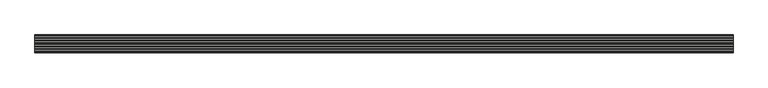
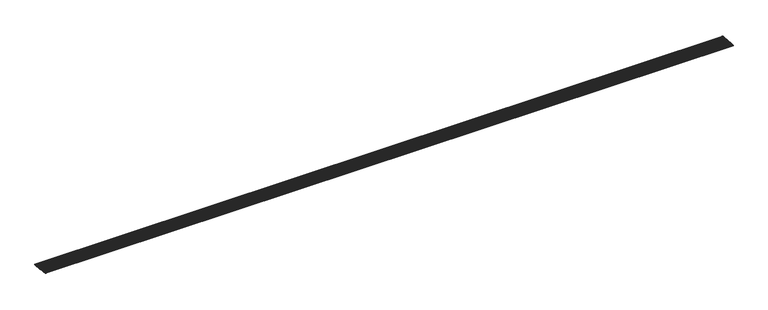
"""IFC4 building model written with IfcOpenShell, lengths in millimetres: slab geometry, ROSA GRES_001 (2 filas) : Piezas 001_Aqua_Blanco_Anti-Slip."""

from ifc_helpers import new_model, si_unit, point, frame, frame_2d, origin, place, context, project, spatial, polyline, circle_curve, trimmed, segment, composite_curve, outline, extrude, source, transform, mapped, element, save


def slab_0e8e06c2(model_context):
    return source(origin(), model_context, "Body", "SweptSolid", [
        extrude(outline(polyline([(0.0, 118.9996), (9502.6320351, 118.9996), (9502.6320351, 0.0), (0.0, 0.0), (0.0, 118.9996)])), frame((9502.6320351, -124.0577627, 199.6968204), z_axis=(0.0, 0.08112705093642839, 0.9967037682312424), x_axis=(-1.0, 0.0, 0.0)), (0.0, 0.0, 1.0), 5.0),
        extrude(outline(polyline([(0.0, 118.9996), (9502.6320351, 118.9996), (9502.6320351, 0.0), (0.0, 0.0), (0.0, 118.9996)])), frame((9502.6320351, -248.6453351, 209.8376693), z_axis=(0.0, 0.08112705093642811, 0.9967037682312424), x_axis=(-1.0, 0.0, 0.0)), (0.0, 0.0, 1.0), 5.0),
        extrude(outline(composite_curve([segment(polyline([(-242.2594772, 214.3344258), (-242.046278, 216.9537305)]), True, "CONTINUOUS"), segment(trimmed(circle_curve(frame_2d((-241.5926747, 222.5265709)), 5.5912705), [point((-242.046278, 216.9537305))], [point((-237.6514463, 218.5605875))], True, "CARTESIAN"), True, "CONTINUOUS"), segment(trimmed(circle_curve(frame_2d((-233.1207211, 221.8369933)), 5.5912705), [point((-237.6514463, 218.5605875))], [point((-229.1794928, 217.8710099))], True, "CARTESIAN"), True, "CONTINUOUS"), segment(trimmed(circle_curve(frame_2d((-224.6487676, 221.1474157)), 5.5912705), [point((-229.1794928, 217.8710099))], [point((-220.7075392, 217.1814322))], True, "CARTESIAN"), True, "CONTINUOUS"), segment(trimmed(circle_curve(frame_2d((-216.176814, 220.457838)), 5.5912705), [point((-220.7075392, 217.1814322))], [point((-212.2355856, 216.4918546))], True, "CARTESIAN"), True, "CONTINUOUS"), segment(trimmed(circle_curve(frame_2d((-207.7048605, 219.7682604)), 5.5912705), [point((-212.2355856, 216.4918546))], [point((-203.7636321, 215.802277))], True, "CARTESIAN"), True, "CONTINUOUS"), segment(trimmed(circle_curve(frame_2d((-199.2329069, 219.0786828)), 5.5912705), [point((-203.7636321, 215.802277))], [point((-195.2916785, 215.1126994))], True, "CARTESIAN"), True, "CONTINUOUS"), segment(trimmed(circle_curve(frame_2d((-190.7609534, 218.3891052)), 5.5912705), [point((-195.2916785, 215.1126994))], [point((-186.819725, 214.4231218))], True, "CARTESIAN"), True, "CONTINUOUS"), segment(trimmed(circle_curve(frame_2d((-182.2889998, 217.6995276)), 5.5912705), [point((-186.819725, 214.4231218))], [point((-178.3477714, 213.7335442))], True, "CARTESIAN"), True, "CONTINUOUS"), segment(trimmed(circle_curve(frame_2d((-173.8170463, 217.00995)), 5.5912705), [point((-178.3477714, 213.7335442))], [point((-169.8758179, 213.0439666))], True, "CARTESIAN"), True, "CONTINUOUS"), segment(trimmed(circle_curve(frame_2d((-165.3450927, 216.3203723)), 5.5912705), [point((-169.8758179, 213.0439666))], [point((-161.4038643, 212.3543889))], True, "CARTESIAN"), True, "CONTINUOUS"), segment(trimmed(circle_curve(frame_2d((-156.8731392, 215.6307947)), 5.5912705), [point((-161.4038643, 212.3543889))], [point((-152.9319108, 211.6648113))], True, "CARTESIAN"), True, "CONTINUOUS"), segment(trimmed(circle_curve(frame_2d((-148.4011856, 214.9412171)), 5.5912705), [point((-152.9319108, 211.6648113))], [point((-144.4599572, 210.9752337))], True, "CARTESIAN"), True, "CONTINUOUS"), segment(trimmed(circle_curve(frame_2d((-139.929232, 214.2516395)), 5.5912705), [point((-144.4599572, 210.9752337))], [point((-135.9880037, 210.2856561))], True, "CARTESIAN"), True, "CONTINUOUS"), segment(trimmed(circle_curve(frame_2d((-131.4572785, 213.5620619)), 5.5912705), [point((-135.9880037, 210.2856561))], [point((-127.5160501, 209.5960785))], True, "CARTESIAN"), True, "CONTINUOUS"), segment(trimmed(circle_curve(frame_2d((-122.9853249, 212.8724843)), 5.5912705), [point((-127.5160501, 209.5960785))], [point((-123.4389282, 207.2996439))], True, "CARTESIAN"), True, "CONTINUOUS"), segment(polyline([(-123.4389282, 207.2996439), (-123.6521274, 204.6803392), (-242.2594772, 214.3344258)]), True, "CONTINUOUS")], self_intersect=False)), frame((0.0, 0.0, 0.0), z_axis=(1.0, 0.0, 0.0), x_axis=(0.0, 1.0, 0.0)), (0.0, 0.0, 1.0), 9502.6320351),
        extrude(outline(composite_curve([segment(polyline([(-366.8470495, 224.4752747), (-366.6338503, 227.0945794)]), True, "CONTINUOUS"), segment(trimmed(circle_curve(frame_2d((-366.180247, 232.6674198)), 5.5912705), [point((-366.6338503, 227.0945794))], [point((-362.2390187, 228.7014364))], True, "CARTESIAN"), True, "CONTINUOUS"), segment(trimmed(circle_curve(frame_2d((-357.7082935, 231.9778422)), 5.5912705), [point((-362.2390187, 228.7014364))], [point((-353.7670651, 228.0118588))], True, "CARTESIAN"), True, "CONTINUOUS"), segment(trimmed(circle_curve(frame_2d((-349.2363399, 231.2882646)), 5.5912705), [point((-353.7670651, 228.0118588))], [point((-345.2951115, 227.3222812))], True, "CARTESIAN"), True, "CONTINUOUS"), segment(trimmed(circle_curve(frame_2d((-340.7643864, 230.5986869)), 5.5912705), [point((-345.2951115, 227.3222812))], [point((-336.823158, 226.6327035))], True, "CARTESIAN"), True, "CONTINUOUS"), segment(trimmed(circle_curve(frame_2d((-332.2924328, 229.9091093)), 5.5912705), [point((-336.823158, 226.6327035))], [point((-328.3512044, 225.9431259))], True, "CARTESIAN"), True, "CONTINUOUS"), segment(trimmed(circle_curve(frame_2d((-323.8204793, 229.2195317)), 5.5912705), [point((-328.3512044, 225.9431259))], [point((-319.8792509, 225.2535483))], True, "CARTESIAN"), True, "CONTINUOUS"), segment(trimmed(circle_curve(frame_2d((-315.3485257, 228.5299541)), 5.5912705), [point((-319.8792509, 225.2535483))], [point((-311.4072973, 224.5639707))], True, "CARTESIAN"), True, "CONTINUOUS"), segment(trimmed(circle_curve(frame_2d((-306.8765722, 227.8403765)), 5.5912705), [point((-311.4072973, 224.5639707))], [point((-302.9353438, 223.8743931))], True, "CARTESIAN"), True, "CONTINUOUS"), segment(trimmed(circle_curve(frame_2d((-298.4046186, 227.1507989)), 5.5912705), [point((-302.9353438, 223.8743931))], [point((-294.4633902, 223.1848155))], True, "CARTESIAN"), True, "CONTINUOUS"), segment(trimmed(circle_curve(frame_2d((-289.9326651, 226.4612213)), 5.5912705), [point((-294.4633902, 223.1848155))], [point((-285.9914367, 222.4952379))], True, "CARTESIAN"), True, "CONTINUOUS"), segment(trimmed(circle_curve(frame_2d((-281.4607115, 225.7716436)), 5.5912705), [point((-285.9914367, 222.4952379))], [point((-277.5194831, 221.8056602))], True, "CARTESIAN"), True, "CONTINUOUS"), segment(trimmed(circle_curve(frame_2d((-272.9887579, 225.082066)), 5.5912705), [point((-277.5194831, 221.8056602))], [point((-269.0475296, 221.1160826))], True, "CARTESIAN"), True, "CONTINUOUS"), segment(trimmed(circle_curve(frame_2d((-264.5168044, 224.3924884)), 5.5912705), [point((-269.0475296, 221.1160826))], [point((-260.575576, 220.426505))], True, "CARTESIAN"), True, "CONTINUOUS"), segment(trimmed(circle_curve(frame_2d((-256.0448508, 223.7029108)), 5.5912705), [point((-260.575576, 220.426505))], [point((-252.1036225, 219.7369274))], True, "CARTESIAN"), True, "CONTINUOUS"), segment(trimmed(circle_curve(frame_2d((-247.5728973, 223.0133332)), 5.5912705), [point((-252.1036225, 219.7369274))], [point((-248.0265006, 217.4404928))], True, "CARTESIAN"), True, "CONTINUOUS"), segment(polyline([(-248.0265006, 217.4404928), (-248.2396998, 214.8211881), (-366.8470495, 224.4752747)]), True, "CONTINUOUS")], self_intersect=False)), frame((0.0, 0.0, 0.0), z_axis=(1.0, 0.0, 0.0), x_axis=(0.0, 1.0, 0.0)), (0.0, 0.0, 1.0), 9502.6320351),
    ])


if __name__ == "__main__":
    model = new_model("IFC4")
    model_context = context("Model", 3, world=origin())
    ifc_project = project(units=[si_unit("LENGTHUNIT", "METRE", prefix="MILLI")], contexts=[model_context])
    site = spatial("IfcSite", under=ifc_project)
    building = spatial("IfcBuilding", under=site)
    placement = place(None, origin())
    slab_shape = slab_0e8e06c2(model_context)
    element("IfcSlab", 1, ObjectType="ROSA GRES_001 (2 filas) : Piezas 001_Aqua_Blanco_Anti-Slip", at=placement, inside=building, context=model_context, shape_type="MappedRepresentation", body=[
        mapped(slab_shape, transform((0.0, 0.0, 0.0), x_axis=(1.0, 0.0, 0.0), y_axis=(0.0, 1.0, 0.0), z_axis=(0.0, 0.0, 1.0))),
    ])
    save(model, "model.ifc")
